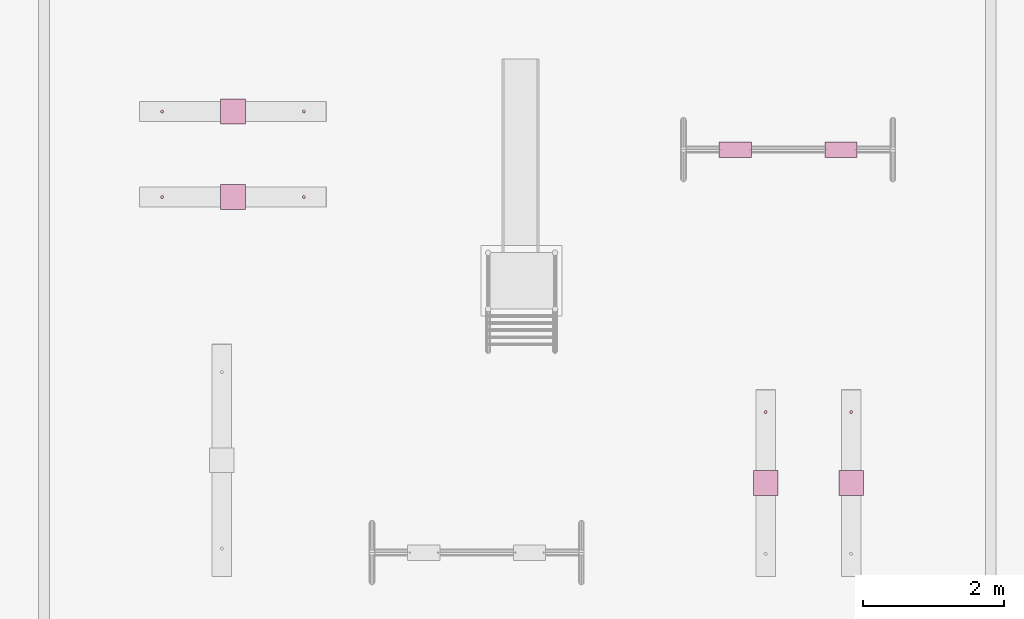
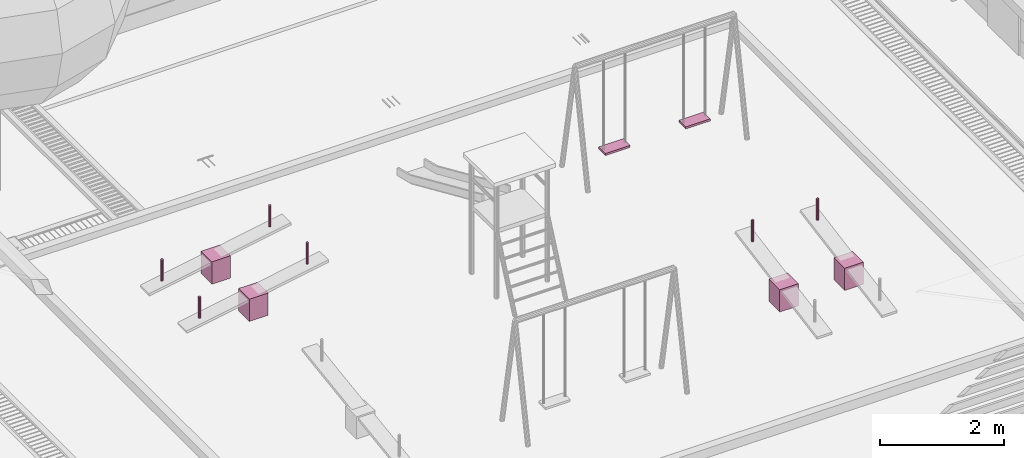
# One storey, part 143 of 166: 12 furnishings.
"""IFC2X3 building model written with IfcOpenShell, lengths in metres."""

from ifc_helpers import new_model, si_unit, origin, origin_with_axes, place, context, subcontext, project, spatial, faceted_brep, element, save


model = new_model("IFC2X3")

# Units and contexts
model_context = context("Model", 3, precision=1e-05, world=origin_with_axes())
body_context = subcontext(model_context, "Body", "Model", "MODEL_VIEW")
ifc_project = project(units=[si_unit("LENGTHUNIT", "METRE"), si_unit("AREAUNIT", "SQUARE_METRE"), si_unit("VOLUMEUNIT", "CUBIC_METRE"), si_unit("PLANEANGLEUNIT", "RADIAN")], contexts=[model_context])

# Site, building, storey
site_placement = place(None, origin_with_axes())
site = spatial("IfcSite", under=ifc_project, at=site_placement, Name="Predio Los Mangos - Morales, San Martín", CompositionType="ELEMENT")
building_placement = place(site_placement, origin())
building = spatial("IfcBuilding", under=site, at=building_placement, Name="Hogar de Refugio Temporal", CompositionType="ELEMENT")
storey_placement = place(building_placement, origin())
storey = spatial("IfcBuildingStorey", under=building, at=storey_placement, Name="NIVEL 1 (NPT +0.00)", CompositionType="ELEMENT", Elevation=0.0)

# Furnishings
furnishing_1_placement = place(storey_placement, origin())
element("IfcFurnishingElement", 1, at=furnishing_1_placement, inside=storey, Name="balancin_base", ObjectType="Mobiliario exterior / juegos", context=body_context, shape_type="Brep", body=[
    faceted_brep([(38.3022, 80.558, 0.13), (38.3022, 80.908, 0.13), (38.6522, 80.908, 0.13), (38.6522, 80.558, 0.13), (38.3022, 80.558, 0.57), (38.6522, 80.558, 0.57), (38.6522, 80.908, 0.57), (38.3022, 80.908, 0.57)], [[[0, 1, 2, 3]], [[4, 5, 6, 7]], [[0, 3, 5, 4]], [[3, 2, 6, 5]], [[2, 1, 7, 6]], [[1, 0, 4, 7]]]),
])
furnishing_2_placement = place(storey_placement, origin())
element("IfcFurnishingElement", 2, at=furnishing_2_placement, inside=storey, Name="balancin_manija", ObjectType="Mobiliario exterior / juegos", context=body_context, shape_type="Brep", body=[
    faceted_brep([(38.4772, 81.718, 0.7524), (38.4772, 81.718, 1.1724), (38.4662, 81.7209, 1.1724), (38.4662, 81.7209, 0.7524), (38.4582, 81.729, 1.1724), (38.4582, 81.729, 0.7524), (38.4552, 81.74, 1.1724), (38.4552, 81.74, 0.7524), (38.4582, 81.751, 1.1724), (38.4582, 81.751, 0.7524), (38.4662, 81.759, 1.1724), (38.4662, 81.759, 0.7524), (38.4772, 81.762, 1.1724), (38.4772, 81.762, 0.7524), (38.4883, 81.759, 1.1724), (38.4883, 81.759, 0.7524), (38.4963, 81.751, 1.1724), (38.4963, 81.751, 0.7524), (38.4992, 81.74, 1.1724), (38.4992, 81.74, 0.7524), (38.4963, 81.729, 1.1724), (38.4963, 81.729, 0.7524), (38.4883, 81.7209, 1.1724), (38.4883, 81.7209, 0.7524)], [[[0, 1, 2, 3]], [[3, 2, 4, 5]], [[5, 4, 6, 7]], [[7, 6, 8, 9]], [[9, 8, 10, 11]], [[11, 10, 12, 13]], [[13, 12, 14, 15]], [[15, 14, 16, 17]], [[17, 16, 18, 19]], [[19, 18, 20, 21]], [[2, 1, 22, 20, 18, 16, 14, 12, 10, 8, 6, 4]], [[21, 20, 22, 23]], [[23, 22, 1, 0]], [[0, 3, 5, 7, 9, 11, 13, 15, 17, 19, 21, 23]]]),
])
furnishing_3_placement = place(storey_placement, origin())
element("IfcFurnishingElement", 3, at=furnishing_3_placement, inside=storey, Name="balancin_base", ObjectType="Mobiliario exterior / juegos", context=body_context, shape_type="Brep", body=[
    faceted_brep([(39.5168, 80.558, 0.13), (39.5168, 80.908, 0.13), (39.8667, 80.908, 0.13), (39.8667, 80.558, 0.13), (39.5168, 80.558, 0.57), (39.8667, 80.558, 0.57), (39.8667, 80.908, 0.57), (39.5168, 80.908, 0.57)], [[[0, 1, 2, 3]], [[4, 5, 6, 7]], [[0, 3, 5, 4]], [[3, 2, 6, 5]], [[2, 1, 7, 6]], [[1, 0, 4, 7]]]),
])
furnishing_4_placement = place(storey_placement, origin())
element("IfcFurnishingElement", 4, at=furnishing_4_placement, inside=storey, Name="balancin_manija", ObjectType="Mobiliario exterior / juegos", context=body_context, shape_type="Brep", body=[
    faceted_brep([(39.6917, 81.718, 0.7524), (39.6917, 81.718, 1.1724), (39.6807, 81.7209, 1.1724), (39.6807, 81.7209, 0.7524), (39.6727, 81.729, 1.1724), (39.6727, 81.729, 0.7524), (39.6698, 81.74, 1.1724), (39.6698, 81.74, 0.7524), (39.6727, 81.751, 1.1724), (39.6727, 81.751, 0.7524), (39.6807, 81.759, 1.1724), (39.6807, 81.759, 0.7524), (39.6917, 81.762, 1.1724), (39.6917, 81.762, 0.7524), (39.7028, 81.759, 1.1724), (39.7028, 81.759, 0.7524), (39.7108, 81.751, 1.1724), (39.7108, 81.751, 0.7524), (39.7137, 81.74, 1.1724), (39.7137, 81.74, 0.7524), (39.7108, 81.729, 1.1724), (39.7108, 81.729, 0.7524), (39.7028, 81.7209, 1.1724), (39.7028, 81.7209, 0.7524)], [[[0, 1, 2, 3]], [[3, 2, 4, 5]], [[5, 4, 6, 7]], [[7, 6, 8, 9]], [[9, 8, 10, 11]], [[11, 10, 12, 13]], [[13, 12, 14, 15]], [[15, 14, 16, 17]], [[17, 16, 18, 19]], [[19, 18, 20, 21]], [[2, 1, 22, 20, 18, 16, 14, 12, 10, 8, 6, 4]], [[21, 20, 22, 23]], [[23, 22, 1, 0]], [[0, 3, 5, 7, 9, 11, 13, 15, 17, 19, 21, 23]]]),
])
furnishing_5_placement = place(storey_placement, origin())
element("IfcFurnishingElement", 5, at=furnishing_5_placement, inside=storey, Name="columpio_asiento", ObjectType="Mobiliario exterior / juegos", context=body_context, shape_type="Brep", body=[
    faceted_brep([(37.8175, 85.359, 0.48), (37.8175, 85.579, 0.48), (38.2775, 85.579, 0.48), (38.2775, 85.359, 0.48), (37.8175, 85.359, 0.52), (38.2775, 85.359, 0.52), (38.2775, 85.579, 0.52), (37.8175, 85.579, 0.52)], [[[0, 1, 2, 3]], [[4, 5, 6, 7]], [[0, 3, 5, 4]], [[3, 2, 6, 5]], [[2, 1, 7, 6]], [[1, 0, 4, 7]]]),
])
furnishing_6_placement = place(storey_placement, origin())
element("IfcFurnishingElement", 6, at=furnishing_6_placement, inside=storey, Name="columpio_asiento", ObjectType="Mobiliario exterior / juegos", context=body_context, shape_type="Brep", body=[
    faceted_brep([(39.3175, 85.359, 0.48), (39.3175, 85.579, 0.48), (39.7775, 85.579, 0.48), (39.7775, 85.359, 0.48), (39.3175, 85.359, 0.52), (39.7775, 85.359, 0.52), (39.7775, 85.579, 0.52), (39.3175, 85.579, 0.52)], [[[0, 1, 2, 3]], [[4, 5, 6, 7]], [[0, 3, 5, 4]], [[3, 2, 6, 5]], [[2, 1, 7, 6]], [[1, 0, 4, 7]]]),
])
furnishing_7_placement = place(storey_placement, origin())
element("IfcFurnishingElement", 7, at=furnishing_7_placement, inside=storey, Name="balancin_base", ObjectType="Mobiliario exterior / juegos", context=body_context, shape_type="Brep", body=[
    faceted_brep([(30.735, 84.6202, 0.13), (30.735, 84.9703, 0.13), (31.085, 84.9703, 0.13), (31.085, 84.6202, 0.13), (30.735, 84.6202, 0.57), (31.085, 84.6202, 0.57), (31.085, 84.9703, 0.57), (30.735, 84.9703, 0.57)], [[[0, 1, 2, 3]], [[4, 5, 6, 7]], [[0, 3, 5, 4]], [[3, 2, 6, 5]], [[2, 1, 7, 6]], [[1, 0, 4, 7]]]),
])
furnishing_8_placement = place(storey_placement, origin())
element("IfcFurnishingElement", 8, at=furnishing_8_placement, inside=storey, Name="balancin_manija", ObjectType="Mobiliario exterior / juegos", context=body_context, shape_type="Brep", body=[
    faceted_brep([(29.903, 84.7732, 0.3876), (29.903, 84.7732, 0.8076), (29.892, 84.7762, 0.8076), (29.892, 84.7762, 0.3876), (29.8839, 84.7842, 0.8076), (29.8839, 84.7842, 0.3876), (29.881, 84.7952, 0.8076), (29.881, 84.7952, 0.3876), (29.8839, 84.8063, 0.8076), (29.8839, 84.8063, 0.3876), (29.892, 84.8143, 0.8076), (29.892, 84.8143, 0.3876), (29.903, 84.8173, 0.8076), (29.903, 84.8173, 0.3876), (29.914, 84.8143, 0.8076), (29.914, 84.8143, 0.3876), (29.9221, 84.8063, 0.8076), (29.9221, 84.8063, 0.3876), (29.925, 84.7952, 0.8076), (29.925, 84.7952, 0.3876), (29.9221, 84.7842, 0.8076), (29.9221, 84.7842, 0.3876), (29.914, 84.7762, 0.8076), (29.914, 84.7762, 0.3876)], [[[0, 1, 2, 3]], [[3, 2, 4, 5]], [[5, 4, 6, 7]], [[7, 6, 8, 9]], [[9, 8, 10, 11]], [[11, 10, 12, 13]], [[13, 12, 14, 15]], [[15, 14, 16, 17]], [[17, 16, 18, 19]], [[19, 18, 20, 21]], [[2, 1, 22, 20, 18, 16, 14, 12, 10, 8, 6, 4]], [[21, 20, 22, 23]], [[23, 22, 1, 0]], [[0, 3, 5, 7, 9, 11, 13, 15, 17, 19, 21, 23]]]),
])
furnishing_9_placement = place(storey_placement, origin())
element("IfcFurnishingElement", 9, at=furnishing_9_placement, inside=storey, Name="balancin_manija", ObjectType="Mobiliario exterior / juegos", context=body_context, shape_type="Brep", body=[
    faceted_brep([(31.917, 84.7732, 0.7524), (31.917, 84.7732, 1.1724), (31.906, 84.7762, 1.1724), (31.906, 84.7762, 0.7524), (31.8979, 84.7842, 1.1724), (31.8979, 84.7842, 0.7524), (31.895, 84.7952, 1.1724), (31.895, 84.7952, 0.7524), (31.8979, 84.8063, 1.1724), (31.8979, 84.8063, 0.7524), (31.906, 84.8143, 1.1724), (31.906, 84.8143, 0.7524), (31.917, 84.8173, 1.1724), (31.917, 84.8173, 0.7524), (31.928, 84.8143, 1.1724), (31.928, 84.8143, 0.7524), (31.9361, 84.8063, 1.1724), (31.9361, 84.8063, 0.7524), (31.939, 84.7952, 1.1724), (31.939, 84.7952, 0.7524), (31.9361, 84.7842, 1.1724), (31.9361, 84.7842, 0.7524), (31.928, 84.7762, 1.1724), (31.928, 84.7762, 0.7524)], [[[0, 1, 2, 3]], [[3, 2, 4, 5]], [[5, 4, 6, 7]], [[7, 6, 8, 9]], [[9, 8, 10, 11]], [[11, 10, 12, 13]], [[13, 12, 14, 15]], [[15, 14, 16, 17]], [[17, 16, 18, 19]], [[19, 18, 20, 21]], [[2, 1, 22, 20, 18, 16, 14, 12, 10, 8, 6, 4]], [[21, 20, 22, 23]], [[23, 22, 1, 0]], [[0, 3, 5, 7, 9, 11, 13, 15, 17, 19, 21, 23]]]),
])
furnishing_10_placement = place(storey_placement, origin())
element("IfcFurnishingElement", 10, at=furnishing_10_placement, inside=storey, Name="balancin_base", ObjectType="Mobiliario exterior / juegos", context=body_context, shape_type="Brep", body=[
    faceted_brep([(30.735, 85.8347, 0.13), (30.735, 86.1848, 0.13), (31.085, 86.1848, 0.13), (31.085, 85.8347, 0.13), (30.735, 85.8347, 0.57), (31.085, 85.8347, 0.57), (31.085, 86.1848, 0.57), (30.735, 86.1848, 0.57)], [[[0, 1, 2, 3]], [[4, 5, 6, 7]], [[0, 3, 5, 4]], [[3, 2, 6, 5]], [[2, 1, 7, 6]], [[1, 0, 4, 7]]]),
])
furnishing_11_placement = place(storey_placement, origin())
element("IfcFurnishingElement", 11, at=furnishing_11_placement, inside=storey, Name="balancin_manija", ObjectType="Mobiliario exterior / juegos", context=body_context, shape_type="Brep", body=[
    faceted_brep([(29.903, 85.9877, 0.3876), (29.903, 85.9877, 0.8076), (29.892, 85.9907, 0.8076), (29.892, 85.9907, 0.3876), (29.8839, 85.9987, 0.8076), (29.8839, 85.9987, 0.3876), (29.881, 86.0098, 0.8076), (29.881, 86.0098, 0.3876), (29.8839, 86.0208, 0.8076), (29.8839, 86.0208, 0.3876), (29.892, 86.0288, 0.8076), (29.892, 86.0288, 0.3876), (29.903, 86.0318, 0.8076), (29.903, 86.0318, 0.3876), (29.914, 86.0288, 0.8076), (29.914, 86.0288, 0.3876), (29.9221, 86.0208, 0.8076), (29.9221, 86.0208, 0.3876), (29.925, 86.0098, 0.8076), (29.925, 86.0098, 0.3876), (29.9221, 85.9987, 0.8076), (29.9221, 85.9987, 0.3876), (29.914, 85.9907, 0.8076), (29.914, 85.9907, 0.3876)], [[[0, 1, 2, 3]], [[3, 2, 4, 5]], [[5, 4, 6, 7]], [[7, 6, 8, 9]], [[9, 8, 10, 11]], [[11, 10, 12, 13]], [[13, 12, 14, 15]], [[15, 14, 16, 17]], [[17, 16, 18, 19]], [[19, 18, 20, 21]], [[2, 1, 22, 20, 18, 16, 14, 12, 10, 8, 6, 4]], [[21, 20, 22, 23]], [[23, 22, 1, 0]], [[0, 3, 5, 7, 9, 11, 13, 15, 17, 19, 21, 23]]]),
])
furnishing_12_placement = place(storey_placement, origin())
element("IfcFurnishingElement", 12, at=furnishing_12_placement, inside=storey, Name="balancin_manija", ObjectType="Mobiliario exterior / juegos", context=body_context, shape_type="Brep", body=[
    faceted_brep([(31.917, 85.9877, 0.7524), (31.917, 85.9877, 1.1724), (31.906, 85.9907, 1.1724), (31.906, 85.9907, 0.7524), (31.8979, 85.9987, 1.1724), (31.8979, 85.9987, 0.7524), (31.895, 86.0098, 1.1724), (31.895, 86.0098, 0.7524), (31.8979, 86.0208, 1.1724), (31.8979, 86.0208, 0.7524), (31.906, 86.0288, 1.1724), (31.906, 86.0288, 0.7524), (31.917, 86.0318, 1.1724), (31.917, 86.0318, 0.7524), (31.928, 86.0288, 1.1724), (31.928, 86.0288, 0.7524), (31.9361, 86.0208, 1.1724), (31.9361, 86.0208, 0.7524), (31.939, 86.0098, 1.1724), (31.939, 86.0098, 0.7524), (31.9361, 85.9987, 1.1724), (31.9361, 85.9987, 0.7524), (31.928, 85.9907, 1.1724), (31.928, 85.9907, 0.7524)], [[[0, 1, 2, 3]], [[3, 2, 4, 5]], [[5, 4, 6, 7]], [[7, 6, 8, 9]], [[9, 8, 10, 11]], [[11, 10, 12, 13]], [[13, 12, 14, 15]], [[15, 14, 16, 17]], [[17, 16, 18, 19]], [[19, 18, 20, 21]], [[2, 1, 22, 20, 18, 16, 14, 12, 10, 8, 6, 4]], [[21, 20, 22, 23]], [[23, 22, 1, 0]], [[0, 3, 5, 7, 9, 11, 13, 15, 17, 19, 21, 23]]]),
])

save(model, "model.ifc")
